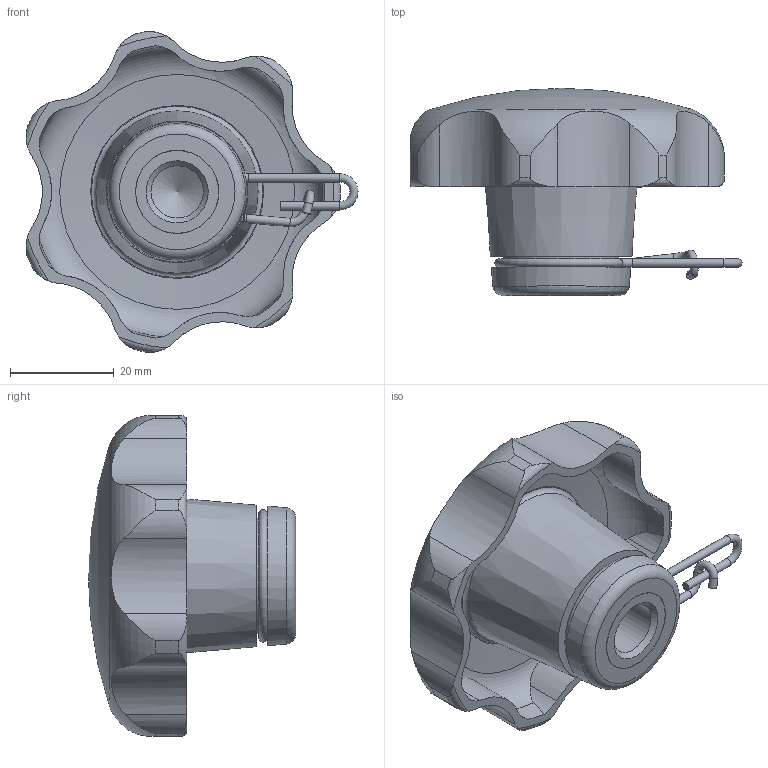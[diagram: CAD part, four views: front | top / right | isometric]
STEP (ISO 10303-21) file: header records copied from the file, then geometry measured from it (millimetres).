
FILE_DESCRIPTION( ( 'STEP AP203' ), '1' );
FILE_NAME( 'C:/Temp/Ganter_Step_05_03_2020/data/2_2/gn_6336_13/gn_6336_13_1/Star knob GN 6336.13-63-M12-A.stp', '2020-03-05T12:10:39', ( 'License CC BY-ND 4.0' ), ( 'CADENAS' ), ' ', 'PARTsolutions', ' ' );
FILE_SCHEMA( ( 'CONFIG_CONTROL_DESIGN' ) );
Length unit declared in the file: millimetre
Products named in the file (1): _Star knob GN 6336.13-63-M12-A
Bounding box: 64.06 x 40 x 61.94 mm (x, y, z)
Volume: 38962.7 mm3; surface area: 13456 mm2
Topology: 1 solids, 1 shells, 104 faces, 276 edges, 179 vertices
Faces by surface type: cylinder 61, torus 18, plane 12, cone 12, sphere 1
Full cylindrical faces by diameter (mm): 1.6 x6, 10.106 x1, 15.99 x1, 16.05 x1, 22.3 x1
Entity records: 4064 total; most frequent: CARTESIAN_POINT 1618, DIRECTION 496, ORIENTED_EDGE 484, EDGE_CURVE 242, AXIS2_PLACEMENT_3D 223, VERTEX_POINT 175, EDGE_LOOP 135, FACE_OUTER_BOUND 124
